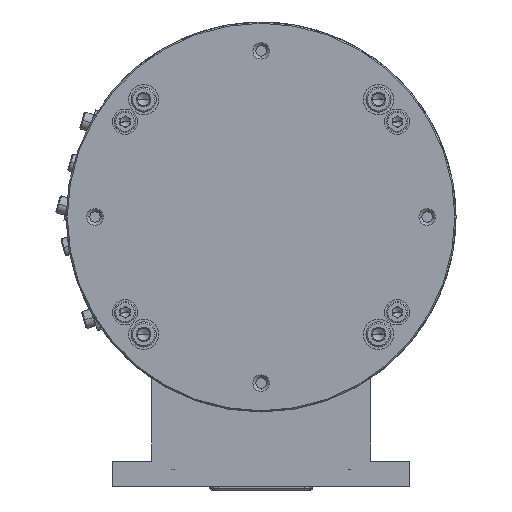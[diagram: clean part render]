
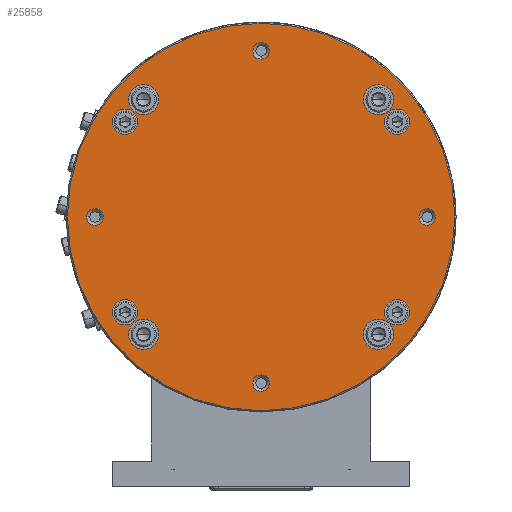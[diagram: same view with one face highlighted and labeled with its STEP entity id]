
A CAD part, front view. The second image highlights one B-rep face of the part: STEP entity #25858.
In plain terms, the highlighted planar face has unit normal (0, -1, 0).
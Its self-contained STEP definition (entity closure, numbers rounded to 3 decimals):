
#3558=CARTESIAN_POINT('',(0.,-89.5,0.));
#3559=DIRECTION('',(0.,-1.,0.));
#3560=DIRECTION('',(1.,0.,0.));
#3561=AXIS2_PLACEMENT_3D('',#3558,#3559,#3560);
#3563=CARTESIAN_POINT('',(0.,-89.5,0.));
#3564=DIRECTION('',(0.,-1.,0.));
#3565=DIRECTION('',(-1.,0.,0.));
#3566=AXIS2_PLACEMENT_3D('',#3563,#3564,#3565);
#3568=CARTESIAN_POINT('',(-54.064,-89.5,-37.856));
#3569=DIRECTION('',(0.,1.,0.));
#3570=DIRECTION('',(1.,0.,0.));
#3571=AXIS2_PLACEMENT_3D('',#3568,#3569,#3570);
#3573=CARTESIAN_POINT('',(-54.064,-89.5,-37.856));
#3574=DIRECTION('',(0.,1.,0.));
#3575=DIRECTION('',(-1.,0.,0.));
#3576=AXIS2_PLACEMENT_3D('',#3573,#3574,#3575);
#3578=CARTESIAN_POINT('',(54.064,-89.5,-37.856));
#3579=DIRECTION('',(0.,1.,0.));
#3580=DIRECTION('',(1.,0.,0.));
#3581=AXIS2_PLACEMENT_3D('',#3578,#3579,#3580);
#3583=CARTESIAN_POINT('',(54.064,-89.5,-37.856));
#3584=DIRECTION('',(0.,1.,0.));
#3585=DIRECTION('',(-1.,0.,0.));
#3586=AXIS2_PLACEMENT_3D('',#3583,#3584,#3585);
#3588=CARTESIAN_POINT('',(54.064,-89.5,37.856));
#3589=DIRECTION('',(0.,1.,0.));
#3590=DIRECTION('',(1.,0.,0.));
#3591=AXIS2_PLACEMENT_3D('',#3588,#3589,#3590);
#3593=CARTESIAN_POINT('',(54.064,-89.5,37.856));
#3594=DIRECTION('',(0.,1.,0.));
#3595=DIRECTION('',(-1.,0.,0.));
#3596=AXIS2_PLACEMENT_3D('',#3593,#3594,#3595);
#3598=CARTESIAN_POINT('',(-54.064,-89.5,37.856));
#3599=DIRECTION('',(0.,1.,0.));
#3600=DIRECTION('',(1.,0.,0.));
#3601=AXIS2_PLACEMENT_3D('',#3598,#3599,#3600);
#3603=CARTESIAN_POINT('',(-54.064,-89.5,37.856));
#3604=DIRECTION('',(0.,1.,0.));
#3605=DIRECTION('',(-1.,0.,0.));
#3606=AXIS2_PLACEMENT_3D('',#3603,#3604,#3605);
#3608=CARTESIAN_POINT('',(46.669,-89.5,-46.669));
#3609=DIRECTION('',(0.,1.,0.));
#3610=DIRECTION('',(1.,0.,0.));
#3611=AXIS2_PLACEMENT_3D('',#3608,#3609,#3610);
#3613=CARTESIAN_POINT('',(46.669,-89.5,-46.669));
#3614=DIRECTION('',(0.,1.,0.));
#3615=DIRECTION('',(-1.,0.,0.));
#3616=AXIS2_PLACEMENT_3D('',#3613,#3614,#3615);
#3618=CARTESIAN_POINT('',(46.669,-89.5,46.669));
#3619=DIRECTION('',(0.,1.,0.));
#3620=DIRECTION('',(1.,0.,0.));
#3621=AXIS2_PLACEMENT_3D('',#3618,#3619,#3620);
#3623=CARTESIAN_POINT('',(46.669,-89.5,46.669));
#3624=DIRECTION('',(0.,1.,0.));
#3625=DIRECTION('',(-1.,0.,0.));
#3626=AXIS2_PLACEMENT_3D('',#3623,#3624,#3625);
#3628=CARTESIAN_POINT('',(-46.669,-89.5,-46.669));
#3629=DIRECTION('',(0.,1.,0.));
#3630=DIRECTION('',(1.,0.,0.));
#3631=AXIS2_PLACEMENT_3D('',#3628,#3629,#3630);
#3633=CARTESIAN_POINT('',(-46.669,-89.5,-46.669));
#3634=DIRECTION('',(0.,1.,0.));
#3635=DIRECTION('',(-1.,0.,0.));
#3636=AXIS2_PLACEMENT_3D('',#3633,#3634,#3635);
#3638=CARTESIAN_POINT('',(-46.669,-89.5,46.669));
#3639=DIRECTION('',(0.,1.,0.));
#3640=DIRECTION('',(1.,0.,0.));
#3641=AXIS2_PLACEMENT_3D('',#3638,#3639,#3640);
#3643=CARTESIAN_POINT('',(-46.669,-89.5,46.669));
#3644=DIRECTION('',(0.,1.,0.));
#3645=DIRECTION('',(-1.,0.,0.));
#3646=AXIS2_PLACEMENT_3D('',#3643,#3644,#3645);
#3648=CARTESIAN_POINT('',(0.,-89.5,-66.));
#3649=DIRECTION('',(0.,-1.,0.));
#3650=DIRECTION('',(0.,0.,-1.));
#3651=AXIS2_PLACEMENT_3D('',#3648,#3649,#3650);
#3653=CARTESIAN_POINT('',(0.,-89.5,-66.));
#3654=DIRECTION('',(0.,-1.,0.));
#3655=DIRECTION('',(0.,0.,1.));
#3656=AXIS2_PLACEMENT_3D('',#3653,#3654,#3655);
#3658=CARTESIAN_POINT('',(-66.,-89.5,0.));
#3659=DIRECTION('',(0.,-1.,0.));
#3660=DIRECTION('',(-1.,0.,0.));
#3661=AXIS2_PLACEMENT_3D('',#3658,#3659,#3660);
#3663=CARTESIAN_POINT('',(-66.,-89.5,0.));
#3664=DIRECTION('',(0.,-1.,0.));
#3665=DIRECTION('',(1.,0.,0.));
#3666=AXIS2_PLACEMENT_3D('',#3663,#3664,#3665);
#3668=CARTESIAN_POINT('',(0.,-89.5,66.));
#3669=DIRECTION('',(0.,-1.,0.));
#3670=DIRECTION('',(0.,0.,1.));
#3671=AXIS2_PLACEMENT_3D('',#3668,#3669,#3670);
#3673=CARTESIAN_POINT('',(0.,-89.5,66.));
#3674=DIRECTION('',(0.,-1.,0.));
#3675=DIRECTION('',(0.,0.,-1.));
#3676=AXIS2_PLACEMENT_3D('',#3673,#3674,#3675);
#3678=CARTESIAN_POINT('',(66.,-89.5,0.));
#3679=DIRECTION('',(0.,-1.,0.));
#3680=DIRECTION('',(1.,0.,0.));
#3681=AXIS2_PLACEMENT_3D('',#3678,#3679,#3680);
#3683=CARTESIAN_POINT('',(66.,-89.5,0.));
#3684=DIRECTION('',(0.,-1.,0.));
#3685=DIRECTION('',(-1.,0.,0.));
#3686=AXIS2_PLACEMENT_3D('',#3683,#3684,#3685);
#17213=CARTESIAN_POINT('',(40.669,-89.5,-46.669));
#17214=CARTESIAN_POINT('',(52.669,-89.5,-46.669));
#17215=VERTEX_POINT('',#17213);
#17216=VERTEX_POINT('',#17214);
#17217=CARTESIAN_POINT('',(-52.669,-89.5,46.669));
#17218=CARTESIAN_POINT('',(-40.669,-89.5,46.669));
#17219=VERTEX_POINT('',#17217);
#17220=VERTEX_POINT('',#17218);
#17221=CARTESIAN_POINT('',(40.669,-89.5,46.669));
#17222=CARTESIAN_POINT('',(52.669,-89.5,46.669));
#17223=VERTEX_POINT('',#17221);
#17224=VERTEX_POINT('',#17222);
#17238=CARTESIAN_POINT('',(77.,-89.5,0.));
#17240=VERTEX_POINT('',#17238);
#17243=CARTESIAN_POINT('',(-77.,-89.5,0.));
#17244=VERTEX_POINT('',#17243);
#17245=CARTESIAN_POINT('',(-52.669,-89.5,-46.669));
#17246=CARTESIAN_POINT('',(-40.669,-89.5,-46.669));
#17247=VERTEX_POINT('',#17245);
#17248=VERTEX_POINT('',#17246);
#17253=CARTESIAN_POINT('',(49.064,-89.5,-37.856));
#17254=CARTESIAN_POINT('',(59.064,-89.5,-37.856));
#17255=VERTEX_POINT('',#17253);
#17256=VERTEX_POINT('',#17254);
#17259=CARTESIAN_POINT('',(-49.064,-89.5,37.856));
#17260=VERTEX_POINT('',#17259);
#17261=CARTESIAN_POINT('',(-59.064,-89.5,37.856));
#17262=VERTEX_POINT('',#17261);
#17263=CARTESIAN_POINT('',(59.064,-89.5,37.856));
#17264=VERTEX_POINT('',#17263);
#17265=CARTESIAN_POINT('',(49.064,-89.5,37.856));
#17266=VERTEX_POINT('',#17265);
#17269=CARTESIAN_POINT('',(-49.064,-89.5,-37.856));
#17270=VERTEX_POINT('',#17269);
#17271=CARTESIAN_POINT('',(-59.064,-89.5,-37.856));
#17272=VERTEX_POINT('',#17271);
#17281=CARTESIAN_POINT('',(0.,-89.5,-69.25));
#17282=CARTESIAN_POINT('',(0.,-89.5,-62.75));
#17283=VERTEX_POINT('',#17281);
#17284=VERTEX_POINT('',#17282);
#17289=CARTESIAN_POINT('',(-69.25,-89.5,0.));
#17290=CARTESIAN_POINT('',(-62.75,-89.5,0.));
#17291=VERTEX_POINT('',#17289);
#17292=VERTEX_POINT('',#17290);
#17301=CARTESIAN_POINT('',(0.,-89.5,69.25));
#17302=CARTESIAN_POINT('',(0.,-89.5,62.75));
#17303=VERTEX_POINT('',#17301);
#17304=VERTEX_POINT('',#17302);
#17309=CARTESIAN_POINT('',(69.25,-89.5,0.));
#17310=CARTESIAN_POINT('',(62.75,-89.5,0.));
#17311=VERTEX_POINT('',#17309);
#17312=VERTEX_POINT('',#17310);
#25777=CARTESIAN_POINT('',(0.,-89.5,0.));
#25778=DIRECTION('',(0.,1.,0.));
#25779=DIRECTION('',(1.,0.,0.));
#25780=AXIS2_PLACEMENT_3D('',#25777,#25778,#25779);
#25781=PLANE('',#25780);
#25782=ORIENTED_EDGE('',*,*,#25745,.F.);
#25783=ORIENTED_EDGE('',*,*,#25762,.F.);
#25784=EDGE_LOOP('',(#25782,#25783));
#25785=FACE_OUTER_BOUND('',#25784,.F.);
#25787=ORIENTED_EDGE('',*,*,#25786,.F.);
#25789=ORIENTED_EDGE('',*,*,#25788,.F.);
#25790=EDGE_LOOP('',(#25787,#25789));
#25791=FACE_BOUND('',#25790,.F.);
#25793=ORIENTED_EDGE('',*,*,#25792,.F.);
#25795=ORIENTED_EDGE('',*,*,#25794,.F.);
#25796=EDGE_LOOP('',(#25793,#25795));
#25797=FACE_BOUND('',#25796,.F.);
#25799=ORIENTED_EDGE('',*,*,#25798,.F.);
#25801=ORIENTED_EDGE('',*,*,#25800,.F.);
#25802=EDGE_LOOP('',(#25799,#25801));
#25803=FACE_BOUND('',#25802,.F.);
#25805=ORIENTED_EDGE('',*,*,#25804,.F.);
#25807=ORIENTED_EDGE('',*,*,#25806,.F.);
#25808=EDGE_LOOP('',(#25805,#25807));
#25809=FACE_BOUND('',#25808,.F.);
#25811=ORIENTED_EDGE('',*,*,#25810,.F.);
#25813=ORIENTED_EDGE('',*,*,#25812,.F.);
#25814=EDGE_LOOP('',(#25811,#25813));
#25815=FACE_BOUND('',#25814,.F.);
#25817=ORIENTED_EDGE('',*,*,#25816,.F.);
#25819=ORIENTED_EDGE('',*,*,#25818,.F.);
#25820=EDGE_LOOP('',(#25817,#25819));
#25821=FACE_BOUND('',#25820,.F.);
#25823=ORIENTED_EDGE('',*,*,#25822,.F.);
#25825=ORIENTED_EDGE('',*,*,#25824,.F.);
#25826=EDGE_LOOP('',(#25823,#25825));
#25827=FACE_BOUND('',#25826,.F.);
#25829=ORIENTED_EDGE('',*,*,#25828,.F.);
#25831=ORIENTED_EDGE('',*,*,#25830,.F.);
#25832=EDGE_LOOP('',(#25829,#25831));
#25833=FACE_BOUND('',#25832,.F.);
#25835=ORIENTED_EDGE('',*,*,#25834,.T.);
#25837=ORIENTED_EDGE('',*,*,#25836,.T.);
#25838=EDGE_LOOP('',(#25835,#25837));
#25839=FACE_BOUND('',#25838,.F.);
#25841=ORIENTED_EDGE('',*,*,#25840,.T.);
#25843=ORIENTED_EDGE('',*,*,#25842,.T.);
#25844=EDGE_LOOP('',(#25841,#25843));
#25845=FACE_BOUND('',#25844,.F.);
#25847=ORIENTED_EDGE('',*,*,#25846,.T.);
#25849=ORIENTED_EDGE('',*,*,#25848,.T.);
#25850=EDGE_LOOP('',(#25847,#25849));
#25851=FACE_BOUND('',#25850,.F.);
#25853=ORIENTED_EDGE('',*,*,#25852,.T.);
#25855=ORIENTED_EDGE('',*,*,#25854,.T.);
#25856=EDGE_LOOP('',(#25853,#25855));
#25857=FACE_BOUND('',#25856,.F.);
#25858=ADVANCED_FACE('',(#25785,#25791,#25797,#25803,#25809,#25815,#25821,
#25827,#25833,#25839,#25845,#25851,#25857),#25781,.F.);
#3562=CIRCLE('',#3561,77.);
#3567=CIRCLE('',#3566,77.);
#3572=CIRCLE('',#3571,5.);
#3577=CIRCLE('',#3576,5.);
#3582=CIRCLE('',#3581,5.);
#3587=CIRCLE('',#3586,5.);
#3592=CIRCLE('',#3591,5.);
#3597=CIRCLE('',#3596,5.);
#3602=CIRCLE('',#3601,5.);
#3607=CIRCLE('',#3606,5.);
#3612=CIRCLE('',#3611,6.);
#3617=CIRCLE('',#3616,6.);
#3622=CIRCLE('',#3621,6.);
#3627=CIRCLE('',#3626,6.);
#3632=CIRCLE('',#3631,6.);
#3637=CIRCLE('',#3636,6.);
#3642=CIRCLE('',#3641,6.);
#3647=CIRCLE('',#3646,6.);
#3652=CIRCLE('',#3651,3.25);
#3657=CIRCLE('',#3656,3.25);
#3662=CIRCLE('',#3661,3.25);
#3667=CIRCLE('',#3666,3.25);
#3672=CIRCLE('',#3671,3.25);
#3677=CIRCLE('',#3676,3.25);
#3682=CIRCLE('',#3681,3.25);
#3687=CIRCLE('',#3686,3.25);
#25745=EDGE_CURVE('',#17240,#17244,#3562,.T.);
#25762=EDGE_CURVE('',#17244,#17240,#3567,.T.);
#25786=EDGE_CURVE('',#17270,#17272,#3572,.T.);
#25788=EDGE_CURVE('',#17272,#17270,#3577,.T.);
#25792=EDGE_CURVE('',#17256,#17255,#3582,.T.);
#25794=EDGE_CURVE('',#17255,#17256,#3587,.T.);
#25798=EDGE_CURVE('',#17264,#17266,#3592,.T.);
#25800=EDGE_CURVE('',#17266,#17264,#3597,.T.);
#25804=EDGE_CURVE('',#17260,#17262,#3602,.T.);
#25806=EDGE_CURVE('',#17262,#17260,#3607,.T.);
#25810=EDGE_CURVE('',#17216,#17215,#3612,.T.);
#25812=EDGE_CURVE('',#17215,#17216,#3617,.T.);
#25816=EDGE_CURVE('',#17224,#17223,#3622,.T.);
#25818=EDGE_CURVE('',#17223,#17224,#3627,.T.);
#25822=EDGE_CURVE('',#17248,#17247,#3632,.T.);
#25824=EDGE_CURVE('',#17247,#17248,#3637,.T.);
#25828=EDGE_CURVE('',#17220,#17219,#3642,.T.);
#25830=EDGE_CURVE('',#17219,#17220,#3647,.T.);
#25834=EDGE_CURVE('',#17283,#17284,#3652,.T.);
#25836=EDGE_CURVE('',#17284,#17283,#3657,.T.);
#25840=EDGE_CURVE('',#17291,#17292,#3662,.T.);
#25842=EDGE_CURVE('',#17292,#17291,#3667,.T.);
#25846=EDGE_CURVE('',#17303,#17304,#3672,.T.);
#25848=EDGE_CURVE('',#17304,#17303,#3677,.T.);
#25852=EDGE_CURVE('',#17311,#17312,#3682,.T.);
#25854=EDGE_CURVE('',#17312,#17311,#3687,.T.);
